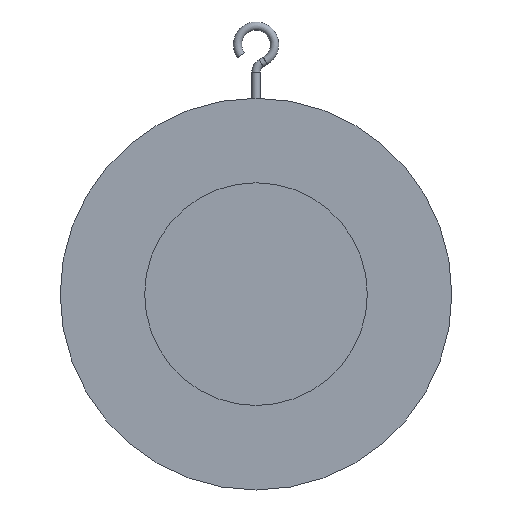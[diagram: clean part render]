
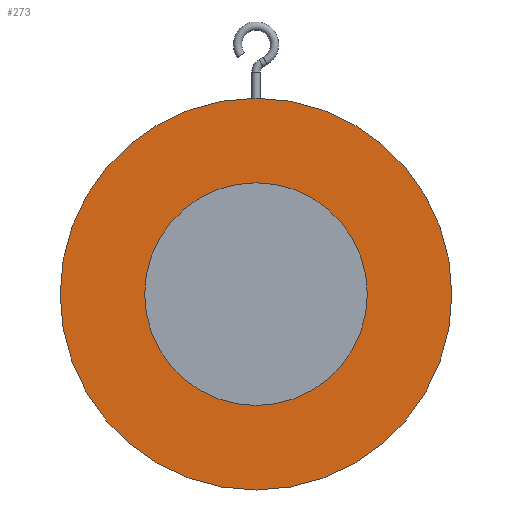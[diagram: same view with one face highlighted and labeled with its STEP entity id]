
A CAD part, front view. The second image highlights one B-rep face of the part: STEP entity #273.
In plain terms, the highlighted planar face has unit normal (0, -1, 0).
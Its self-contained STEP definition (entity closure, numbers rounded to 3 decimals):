
#273=ADVANCED_FACE('',(#525,#527),#529,.T.);
#525=FACE_BOUND('',#526,.T.);
#526=EDGE_LOOP('',(#702));
#527=FACE_BOUND('',#528,.T.);
#528=EDGE_LOOP('',(#703));
#529=PLANE('',#530);
#530=AXIS2_PLACEMENT_3D('',#531,#532,#533);
#531=CARTESIAN_POINT('',(0.,-19.,0.));
#532=DIRECTION('',(0.,-1.,0.));
#533=DIRECTION('',(0.,0.,1.));
#702=ORIENTED_EDGE('',*,*,#772,.F.);
#703=ORIENTED_EDGE('',*,*,#774,.T.);
#772=EDGE_CURVE('',#877,#877,#878,.T.);
#774=EDGE_CURVE('',#881,#881,#882,.T.);
#877=VERTEX_POINT('',#1365);
#878=CIRCLE('',#1366,190.);
#881=VERTEX_POINT('',#1375);
#882=CIRCLE('',#1376,108.);
#1365=CARTESIAN_POINT('',(0.,-19.,190.));
#1366=AXIS2_PLACEMENT_3D('',#1367,#1368,#1369);
#1367=CARTESIAN_POINT('',(0.,-19.,0.));
#1368=DIRECTION('',(0.,1.,0.));
#1369=DIRECTION('',(0.,0.,1.));
#1375=CARTESIAN_POINT('',(0.,-19.,108.));
#1376=AXIS2_PLACEMENT_3D('',#1377,#1378,#1379);
#1377=CARTESIAN_POINT('',(0.,-19.,0.));
#1378=DIRECTION('',(0.,1.,0.));
#1379=DIRECTION('',(0.,0.,1.));
